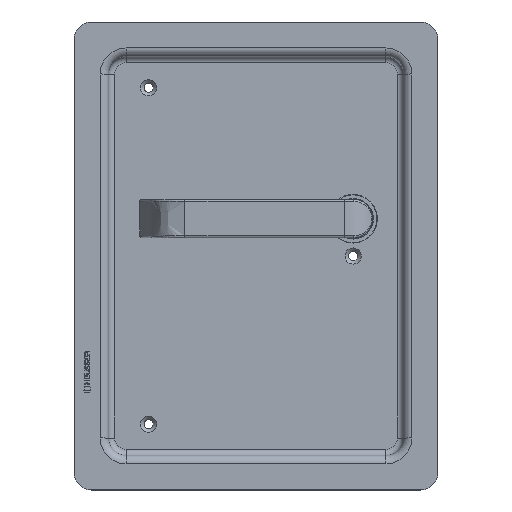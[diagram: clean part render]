
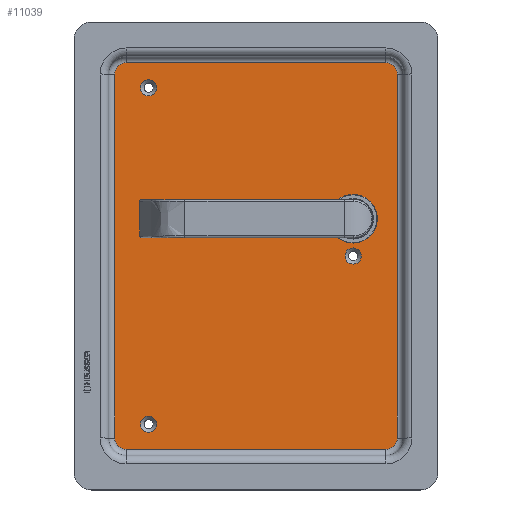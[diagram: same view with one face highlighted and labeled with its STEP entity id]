
A CAD part, top view. The second image highlights one B-rep face of the part: STEP entity #11039.
In plain terms, the highlighted planar face has unit normal (0, 0, 1).
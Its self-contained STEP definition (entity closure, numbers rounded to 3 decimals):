
#720=LINE('',#14745,#1673);
#721=LINE('',#14753,#1674);
#722=LINE('',#14763,#1675);
#725=LINE('',#14775,#1678);
#1673=VECTOR('',#12472,10.);
#1674=VECTOR('',#12483,10.);
#1675=VECTOR('',#12496,10.);
#1678=VECTOR('',#12511,10.);
#2677=FACE_BOUND('',#3612,.T.);
#2678=FACE_BOUND('',#3613,.T.);
#2679=FACE_BOUND('',#3614,.T.);
#2680=FACE_BOUND('',#3615,.T.);
#2966=FACE_OUTER_BOUND('',#3611,.T.);
#3611=EDGE_LOOP('',(#7977,#7978,#7979,#7980,#7981,#7982,#7983,#7984));
#3612=EDGE_LOOP('',(#7985));
#3613=EDGE_LOOP('',(#7986));
#3614=EDGE_LOOP('',(#7987));
#3615=EDGE_LOOP('',(#7988));
#4127=CIRCLE('',#11570,6.5);
#4130=CIRCLE('',#11575,6.5);
#4133=CIRCLE('',#11580,6.5);
#4137=CIRCLE('',#11586,6.5);
#4160=CIRCLE('',#11736,4.65);
#4161=CIRCLE('',#11738,4.65);
#4162=CIRCLE('',#11740,14.);
#4163=CIRCLE('',#11741,4.65);
#4341=VERTEX_POINT('',#14738);
#4342=VERTEX_POINT('',#14740);
#4343=VERTEX_POINT('',#14744);
#4344=VERTEX_POINT('',#14748);
#4345=VERTEX_POINT('',#14752);
#4346=VERTEX_POINT('',#14756);
#4348=VERTEX_POINT('',#14762);
#4350=VERTEX_POINT('',#14768);
#4628=VERTEX_POINT('',#16330);
#4629=VERTEX_POINT('',#16333);
#4630=VERTEX_POINT('',#16336);
#4631=VERTEX_POINT('',#16338);
#5415=EDGE_CURVE('',#4342,#4341,#4127,.T.);
#5417=EDGE_CURVE('',#4343,#4342,#720,.T.);
#5419=EDGE_CURVE('',#4344,#4343,#4130,.T.);
#5421=EDGE_CURVE('',#4345,#4344,#721,.T.);
#5423=EDGE_CURVE('',#4346,#4345,#4133,.T.);
#5426=EDGE_CURVE('',#4348,#4346,#722,.T.);
#5429=EDGE_CURVE('',#4350,#4348,#4137,.T.);
#5433=EDGE_CURVE('',#4341,#4350,#725,.T.);
#5854=EDGE_CURVE('',#4628,#4628,#4160,.T.);
#5855=EDGE_CURVE('',#4629,#4629,#4161,.T.);
#5856=EDGE_CURVE('',#4630,#4630,#4162,.T.);
#5857=EDGE_CURVE('',#4631,#4631,#4163,.T.);
#7977=ORIENTED_EDGE('',*,*,#5433,.T.);
#7978=ORIENTED_EDGE('',*,*,#5429,.T.);
#7979=ORIENTED_EDGE('',*,*,#5426,.T.);
#7980=ORIENTED_EDGE('',*,*,#5423,.T.);
#7981=ORIENTED_EDGE('',*,*,#5421,.T.);
#7982=ORIENTED_EDGE('',*,*,#5419,.T.);
#7983=ORIENTED_EDGE('',*,*,#5417,.T.);
#7984=ORIENTED_EDGE('',*,*,#5415,.T.);
#7985=ORIENTED_EDGE('',*,*,#5856,.T.);
#7986=ORIENTED_EDGE('',*,*,#5855,.F.);
#7987=ORIENTED_EDGE('',*,*,#5854,.F.);
#7988=ORIENTED_EDGE('',*,*,#5857,.F.);
#10014=PLANE('',#11739);
#11039=ADVANCED_FACE('',(#2966,#2677,#2678,#2679,#2680),#10014,.F.);
#11570=AXIS2_PLACEMENT_3D('',#14741,#12466,#12467);
#11575=AXIS2_PLACEMENT_3D('',#14749,#12477,#12478);
#11580=AXIS2_PLACEMENT_3D('',#14757,#12488,#12489);
#11586=AXIS2_PLACEMENT_3D('',#14769,#12502,#12503);
#11736=AXIS2_PLACEMENT_3D('',#16331,#13082,#13083);
#11738=AXIS2_PLACEMENT_3D('',#16334,#13086,#13087);
#11739=AXIS2_PLACEMENT_3D('',#16335,#13088,#13089);
#11740=AXIS2_PLACEMENT_3D('',#16337,#13090,#13091);
#11741=AXIS2_PLACEMENT_3D('',#16339,#13092,#13093);
#12466=DIRECTION('center_axis',(0.,0.,
1.));
#12467=DIRECTION('ref_axis',(-0.707,-0.707,0.));
#12472=DIRECTION('',(0.,-1.,0.));
#12477=DIRECTION('center_axis',(0.,0.,
1.));
#12478=DIRECTION('ref_axis',(-0.707,0.707,0.));
#12483=DIRECTION('',(-1.,0.,0.));
#12488=DIRECTION('center_axis',(0.,0.,
1.));
#12489=DIRECTION('ref_axis',(0.707,0.707,0.));
#12496=DIRECTION('',(0.,1.,0.));
#12502=DIRECTION('center_axis',(0.,0.,
1.));
#12503=DIRECTION('ref_axis',(0.707,-0.707,0.));
#12511=DIRECTION('',(1.,0.,0.));
#13082=DIRECTION('center_axis',(0.,0.,
1.));
#13083=DIRECTION('ref_axis',(-1.,0.,0.));
#13086=DIRECTION('center_axis',(0.,0.,
1.));
#13087=DIRECTION('ref_axis',(-1.,0.,0.));
#13088=DIRECTION('center_axis',(0.,0.,
-1.));
#13089=DIRECTION('ref_axis',(-1.,0.,0.));
#13090=DIRECTION('center_axis',(0.,0.,
-1.));
#13091=DIRECTION('ref_axis',(0.,1.,0.));
#13092=DIRECTION('center_axis',(0.,0.,
1.));
#13093=DIRECTION('ref_axis',(-1.,0.,0.));
#14738=CARTESIAN_POINT('',(-102.185,-90.141,-9.));
#14740=CARTESIAN_POINT('',(-108.685,-83.641,-9.));
#14741=CARTESIAN_POINT('Origin',(-102.185,-83.641,-9.));
#14744=CARTESIAN_POINT('',(-108.685,126.359,-9.));
#14745=CARTESIAN_POINT('',(-108.685,73.859,-9.));
#14748=CARTESIAN_POINT('',(-102.185,132.859,-9.));
#14749=CARTESIAN_POINT('Origin',(-102.185,126.359,-9.));
#14752=CARTESIAN_POINT('',(47.815,132.859,-9.));
#14753=CARTESIAN_POINT('',(10.315,132.859,-9.));
#14756=CARTESIAN_POINT('',(54.315,126.359,-9.));
#14757=CARTESIAN_POINT('Origin',(47.815,126.359,-9.));
#14762=CARTESIAN_POINT('',(54.315,-83.641,-9.));
#14763=CARTESIAN_POINT('',(54.315,-31.141,-9.));
#14768=CARTESIAN_POINT('',(47.815,-90.141,-9.));
#14769=CARTESIAN_POINT('Origin',(47.815,-83.641,-9.));
#14775=CARTESIAN_POINT('',(-64.685,-90.141,-9.));
#16330=CARTESIAN_POINT('',(33.465,21.359,-9.));
#16331=CARTESIAN_POINT('Origin',(28.815,21.359,-9.));
#16333=CARTESIAN_POINT('',(-84.535,-75.641,-9.));
#16334=CARTESIAN_POINT('Origin',(-89.185,-75.641,-9.));
#16335=CARTESIAN_POINT('Origin',(-27.185,21.359,-9.));
#16336=CARTESIAN_POINT('',(28.815,28.859,-9.));
#16337=CARTESIAN_POINT('Origin',(28.815,42.859,-9.));
#16338=CARTESIAN_POINT('',(-84.535,118.359,-9.));
#16339=CARTESIAN_POINT('Origin',(-89.185,118.359,-9.));
